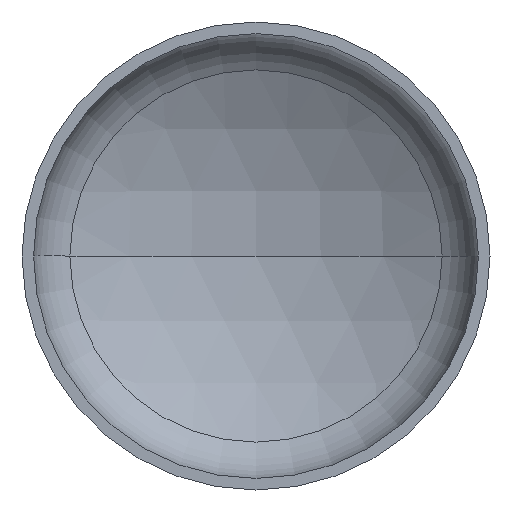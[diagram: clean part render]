
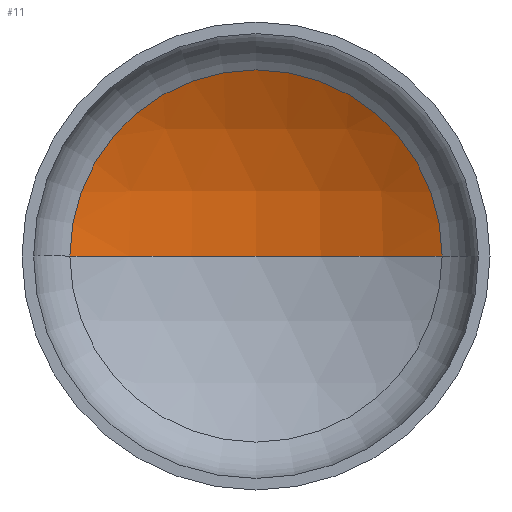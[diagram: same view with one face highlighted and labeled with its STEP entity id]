
A CAD part, front view. The second image highlights one B-rep face of the part: STEP entity #11.
In plain terms, the highlighted spherical face has radius 2720 mm.
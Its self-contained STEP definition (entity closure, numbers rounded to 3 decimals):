
#11 = ADVANCED_FACE ( 'NONE', ( #281 ), #159, .F. ) ;
#28 = VERTEX_POINT ( 'NONE', #189 ) ;
#35 = ORIENTED_EDGE ( 'NONE', *, *, #138, .T. ) ;
#37 = AXIS2_PLACEMENT_3D ( 'NONE', #308, #180, #331 ) ;
#41 = AXIS2_PLACEMENT_3D ( 'NONE', #305, #178, #330 ) ;
#42 = AXIS2_PLACEMENT_3D ( 'NONE', #250, #401, #273 ) ;
#60 = AXIS2_PLACEMENT_3D ( 'NONE', #206, #188, #396 ) ;
#64 = VERTEX_POINT ( 'NONE', #104 ) ;
#66 = VERTEX_POINT ( 'NONE', #155 ) ;
#104 = CARTESIAN_POINT ( 'NONE',  ( 0., 915.336, 0. ) ) ;
#106 = CIRCLE ( 'NONE', #37, 2720. ) ;
#119 = EDGE_CURVE ( 'NONE', #66, #28, #194, .T. ) ;
#126 = ORIENTED_EDGE ( 'NONE', *, *, #119, .T. ) ;
#138 = EDGE_CURVE ( 'NONE', #64, #66, #307, .T. ) ;
#148 = EDGE_CURVE ( 'NONE', #64, #28, #106, .T. ) ;
#155 = CARTESIAN_POINT ( 'NONE',  ( 1351.945, 555.557, 0. ) ) ;
#159 = SPHERICAL_SURFACE ( 'NONE', #60, 2720. ) ;
#164 = EDGE_LOOP ( 'NONE', ( #230, #35, #126 ) ) ;
#178 = DIRECTION ( 'NONE',  ( 0., -1., 0. ) ) ;
#180 = DIRECTION ( 'NONE',  ( 0., 0., 1. ) ) ;
#188 = DIRECTION ( 'NONE',  ( 0., 0., -1. ) ) ;
#189 = CARTESIAN_POINT ( 'NONE',  ( -1351.945, 555.557, 0. ) ) ;
#194 = CIRCLE ( 'NONE', #41, 1351.945 ) ;
#206 = CARTESIAN_POINT ( 'NONE',  ( 0., -1804.664, 0. ) ) ;
#230 = ORIENTED_EDGE ( 'NONE', *, *, #148, .F. ) ;
#250 = CARTESIAN_POINT ( 'NONE',  ( 0., -1804.664, 0. ) ) ;
#273 = DIRECTION ( 'NONE',  ( -1., 0., 0. ) ) ;
#281 = FACE_OUTER_BOUND ( 'NONE', #164, .T. ) ;
#305 = CARTESIAN_POINT ( 'NONE',  ( 0., 555.557, 0. ) ) ;
#307 = CIRCLE ( 'NONE', #42, 2720. ) ;
#308 = CARTESIAN_POINT ( 'NONE',  ( 0., -1804.664, 0. ) ) ;
#330 = DIRECTION ( 'NONE',  ( 1., 0., 0. ) ) ;
#331 = DIRECTION ( 'NONE',  ( 1., 0., 0. ) ) ;
#396 = DIRECTION ( 'NONE',  ( -1., 0., 0. ) ) ;
#401 = DIRECTION ( 'NONE',  ( 0., 0., -1. ) ) ;
